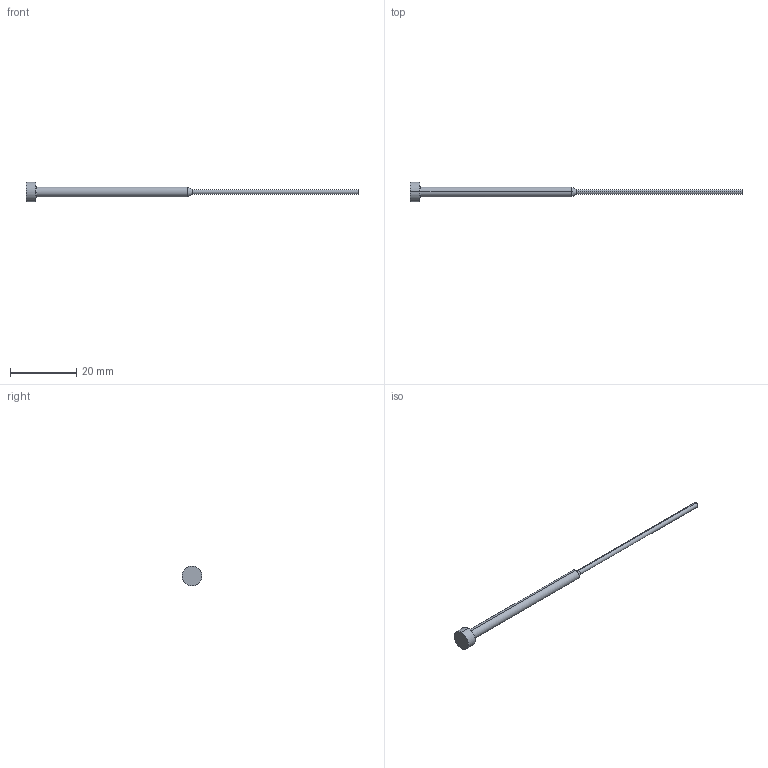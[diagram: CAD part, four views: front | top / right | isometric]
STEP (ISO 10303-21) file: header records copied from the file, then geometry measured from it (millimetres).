
FILE_DESCRIPTION(('CATIA V5 STEP Exchange'),'2;1');
FILE_NAME('C:\Users\Utente\Desktop\IO LAVORO\3D X SITO CF\X SITO\PLASTICA\359\359-1,5X3X100.stp','2021-05-14T18:25:36+00:00',('none'),('none'),'CATIA Version 5 Release 20 GA (IN-10)','CATIA V5 STEP AP203','none');
FILE_SCHEMA(('CONFIG_CONTROL_DESIGN'));
Length unit declared in the file: millimetre
Products named in the file (1): 359-1,5X3X100
Bounding box: 100 x 6 x 6 mm (x, y, z)
Volume: 501.8 mm3; surface area: 783.6 mm2
Topology: 1 solids, 1 shells, 13 faces, 38 edges, 28 vertices
Faces by surface type: cylinder 6, plane 3, cone 2, torus 2
Entity records: 526 total; most frequent: CARTESIAN_POINT 140, ORIENTED_EDGE 76, DIRECTION 58, AXIS2_PLACEMENT_3D 38, EDGE_CURVE 38, VERTEX_POINT 28, CIRCLE 24, EDGE_LOOP 14
